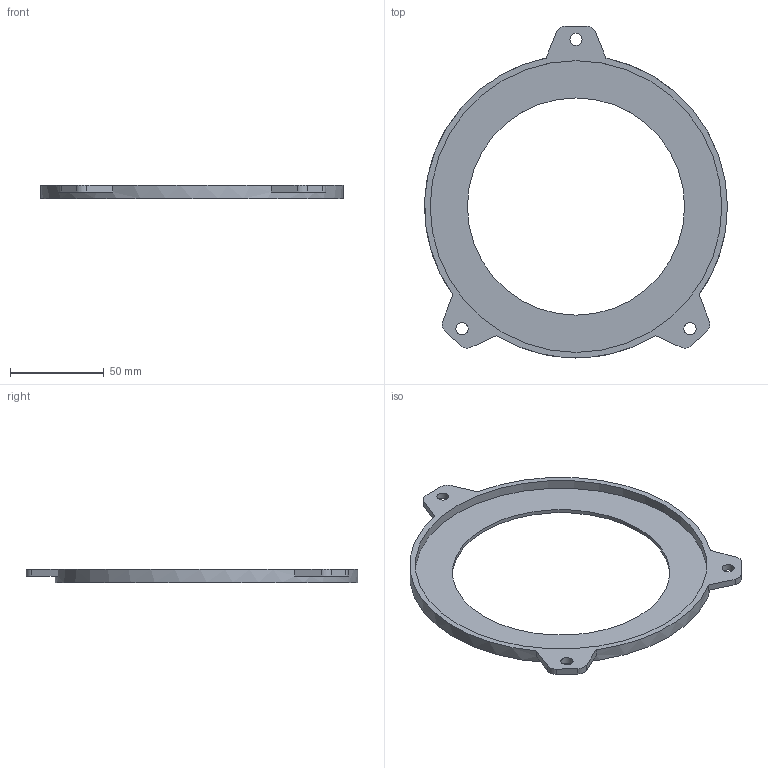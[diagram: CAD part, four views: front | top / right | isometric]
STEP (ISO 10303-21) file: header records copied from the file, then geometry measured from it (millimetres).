
FILE_DESCRIPTION(/* description */ ('Alibre Inc.'),/* implementation_level */ '2;1');
FILE_NAME(/* name */ 'export0',/* time_stamp */ '2017-07-18T23:01:13-04:00',/* author */ (''),/* organization */ (''),/* preprocessor_version */ 'ST-DEVELOPER v14',/* originating_system */ 'Alibre',/* authorisation */ '');
FILE_SCHEMA (('CONFIG_CONTROL_DESIGN'));
Length unit declared in the file: centimetre
Products named in the file (1): ID_1
Bounding box: 161.75 x 177.27 x 7 mm (x, y, z)
Volume: 31184.6 mm3; surface area: 29268.4 mm2
Topology: 1 solids, 1 shells, 27 faces, 72 edges, 48 vertices
Faces by surface type: plane 15, cylinder 12
Full cylindrical faces by diameter (mm): 6.5 x3, 116 x1, 155.75 x1, 161.75 x1
Entity records: 892 total; most frequent: CARTESIAN_POINT 137, ORIENTED_EDGE 130, DIRECTION 129, EDGE_CURVE 65, AXIS2_PLACEMENT_3D 54, VERTEX_POINT 47, EDGE_LOOP 42, FACE_BOUND 42
